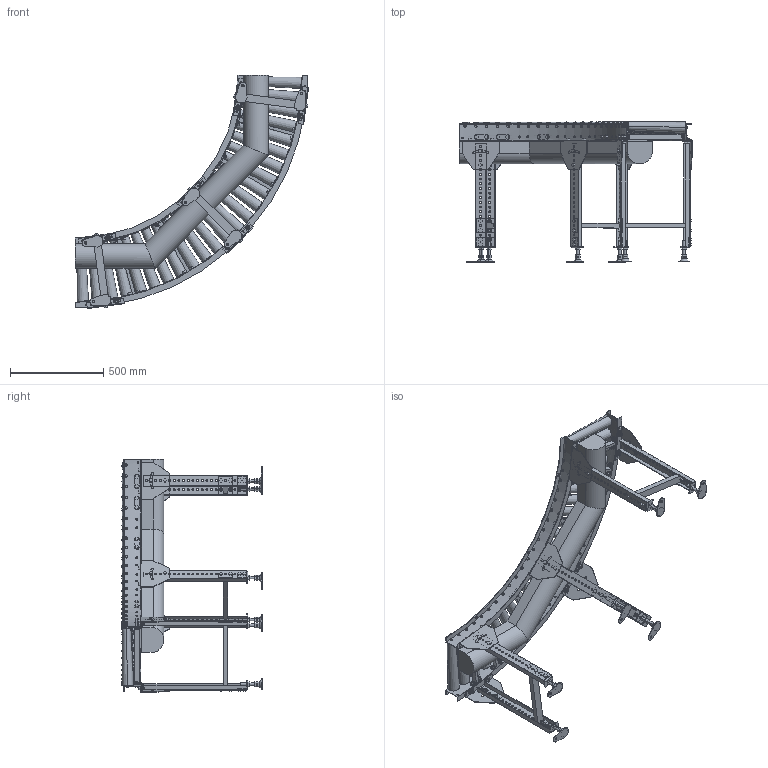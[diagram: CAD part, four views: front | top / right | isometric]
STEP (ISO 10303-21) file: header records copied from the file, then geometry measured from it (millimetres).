
FILE_DESCRIPTION (( 'STEP AP214' ), '1' );
FILE_NAME ('MCD50C9-90-315-75.STEP', '2022-08-01T07:03:27', ( '' ), ( '' ), 'SwSTEP 2.0', 'SolidWorks 2017', '' );
FILE_SCHEMA (( 'AUTOMOTIVE_DESIGN' ));
Length unit declared in the file: millimetre
Products named in the file (1): MCD50C9-90-315-75
Bounding box: 1248.06 x 750 x 1248.06 mm (x, y, z)
Volume: 44518681 mm3; surface area: 4658549.3 mm2
Topology: 28 solids, 58 shells, 3903 faces, 9300 edges, 5866 vertices
Faces by surface type: plane 2752, cylinder 1091, cone 60
Entity records: 168476 total; most frequent: CARTESIAN_POINT 32670, DIRECTION 19596, ORIENTED_EDGE 18600, EDGE_CURVE 9300, AXIS2_PLACEMENT_3D 6826, VECTOR 5944, LINE 5944, VERTEX_POINT 5866
